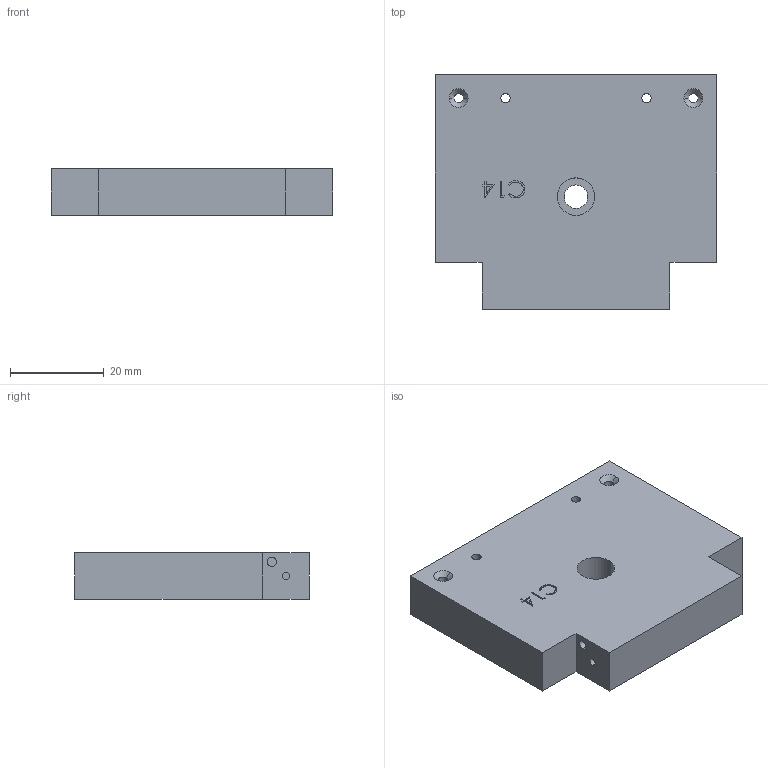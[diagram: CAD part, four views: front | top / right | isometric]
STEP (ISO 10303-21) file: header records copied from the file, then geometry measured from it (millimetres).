
FILE_DESCRIPTION (( 'STEP AP214' ), '1' );
FILE_NAME ('C14.STEP', '2016-02-27T11:55:32', ( '' ), ( '' ), 'SwSTEP 2.0', 'SolidWorks 2012', '' );
FILE_SCHEMA (( 'AUTOMOTIVE_DESIGN' ));
Length unit declared in the file: millimetre
Products named in the file (1): C14
Bounding box: 60 x 50 x 10 mm (x, y, z)
Volume: 27361.6 mm3; surface area: 8437.5 mm2
Topology: 1 solids, 1 shells, 76 faces, 188 edges, 124 vertices
Faces by surface type: plane 41, cylinder 22, bspline 9, cone 4
Entity records: 2848 total; most frequent: CARTESIAN_POINT 998, ORIENTED_EDGE 376, DIRECTION 354, EDGE_CURVE 188, VERTEX_POINT 124, LINE 122, VECTOR 122, AXIS2_PLACEMENT_3D 116
